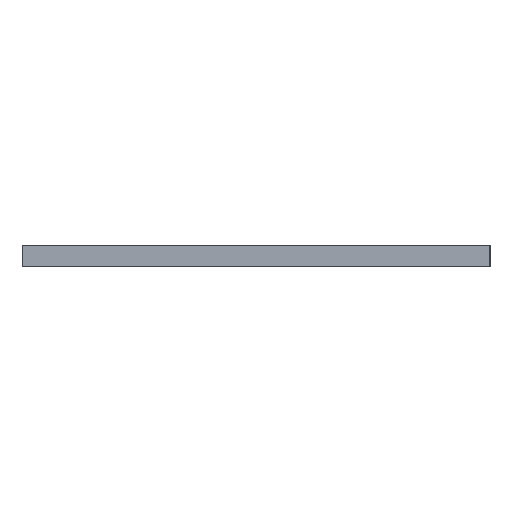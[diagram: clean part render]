
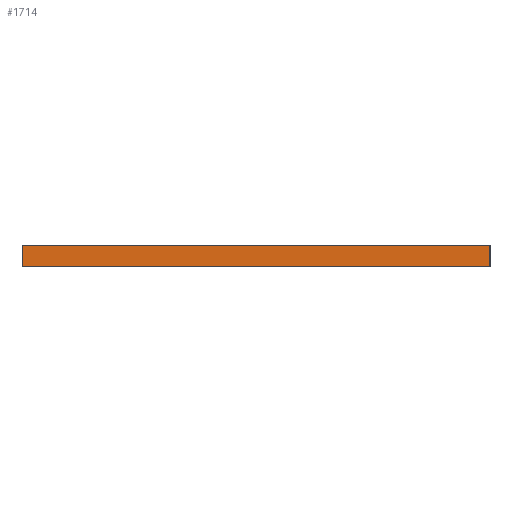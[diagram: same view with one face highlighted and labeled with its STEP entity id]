
A CAD part, left-side view. The second image highlights one B-rep face of the part: STEP entity #1714.
In plain terms, the highlighted planar face has unit normal (-1, 0, 0).
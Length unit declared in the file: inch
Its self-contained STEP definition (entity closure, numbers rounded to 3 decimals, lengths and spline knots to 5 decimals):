
#158=PLANE('',#1944);
#234=FACE_OUTER_BOUND('',#310,.T.);
#310=EDGE_LOOP('',(#1419,#1420,#1421,#1422));
#524=LINE('',#2889,#606);
#532=LINE('',#2904,#614);
#533=LINE('',#2906,#615);
#534=LINE('',#2907,#616);
#606=VECTOR('',#2442,0.3937);
#614=VECTOR('',#2454,0.3937);
#615=VECTOR('',#2457,0.3937);
#616=VECTOR('',#2458,0.3937);
#897=VERTEX_POINT('',#2885);
#899=VERTEX_POINT('',#2888);
#903=VERTEX_POINT('',#2900);
#904=VERTEX_POINT('',#2902);
#1116=EDGE_CURVE('',#897,#899,#524,.T.);
#1124=EDGE_CURVE('',#903,#904,#532,.T.);
#1125=EDGE_CURVE('',#903,#897,#533,.T.);
#1126=EDGE_CURVE('',#899,#904,#534,.T.);
#1419=ORIENTED_EDGE('',*,*,#1125,.F.);
#1420=ORIENTED_EDGE('',*,*,#1124,.T.);
#1421=ORIENTED_EDGE('',*,*,#1126,.F.);
#1422=ORIENTED_EDGE('',*,*,#1116,.F.);
#1714=ADVANCED_FACE('',(#234),#158,.T.);
#1944=AXIS2_PLACEMENT_3D('',#2905,#2455,#2456);
#2442=DIRECTION('',(0.,0.,-1.));
#2454=DIRECTION('',(0.,0.,-1.));
#2455=DIRECTION('center_axis',(-1.,0.,0.));
#2456=DIRECTION('ref_axis',(0.,1.,0.));
#2457=DIRECTION('',(0.,-1.,0.));
#2458=DIRECTION('',(0.,1.,0.));
#2885=CARTESIAN_POINT('',(0.,0.,0.));
#2888=CARTESIAN_POINT('',(0.,0.,-0.093));
#2889=CARTESIAN_POINT('',(0.,0.,0.));
#2900=CARTESIAN_POINT('',(0.,2.,0.));
#2902=CARTESIAN_POINT('',(0.,2.,-0.093));
#2904=CARTESIAN_POINT('',(0.,2.,0.));
#2905=CARTESIAN_POINT('Origin',(0.,0.,0.));
#2906=CARTESIAN_POINT('',(0.,2.,0.));
#2907=CARTESIAN_POINT('',(0.,2.,-0.093));
